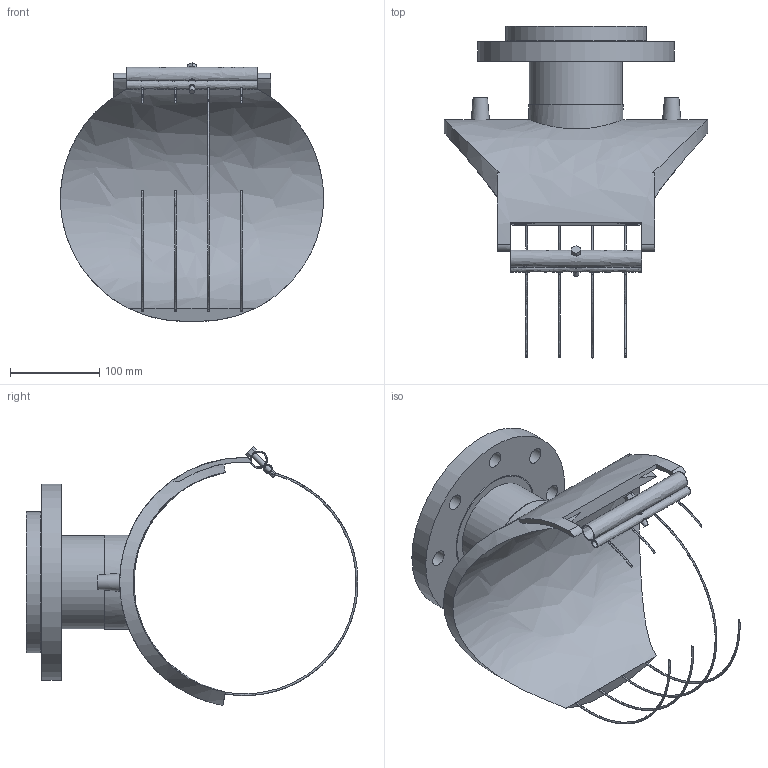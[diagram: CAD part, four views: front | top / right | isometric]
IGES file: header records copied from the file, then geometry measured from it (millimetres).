
Global section: file name: 4959X4250100T; native system: Autodesk Inventor 2019; preprocessor: unknown; author: KIM; date: 20220428.113753; units: millimetre
Bounding box: 295 x 372 x 289.77 mm (x, y, z)
Volume: 2370680.7 mm3; surface area: 409120.9 mm2
Topology: 2 solids, 2 shells, 79 faces, 237 edges, 166 vertices
Faces by surface type: bspline 79
